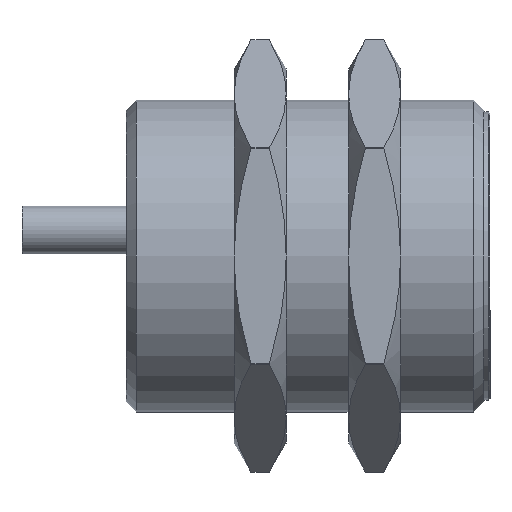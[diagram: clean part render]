
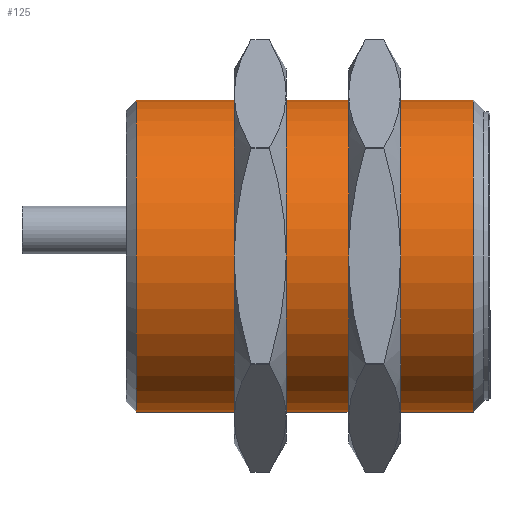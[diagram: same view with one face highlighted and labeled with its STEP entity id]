
A CAD part, front view. The second image highlights one B-rep face of the part: STEP entity #125.
In plain terms, the highlighted cylindrical face has radius 15 mm (diameter 30 mm), a full revolution.
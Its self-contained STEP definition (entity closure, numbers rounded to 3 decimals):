
#125 = ADVANCED_FACE( '', ( #249, #250 ), #251, .T. );
#249 = FACE_OUTER_BOUND( '', #397, .T. );
#250 = FACE_OUTER_BOUND( '', #398, .T. );
#251 = CYLINDRICAL_SURFACE( '', #399, 15. );
#397 = EDGE_LOOP( '', ( #558 ) );
#398 = EDGE_LOOP( '', ( #559 ) );
#399 = AXIS2_PLACEMENT_3D( '', #560, #561, #562 );
#558 = ORIENTED_EDGE( '', *, *, #851, .T. );
#559 = ORIENTED_EDGE( '', *, *, #852, .T. );
#560 = CARTESIAN_POINT( '', ( -34.4, 0., 0. ) );
#561 = DIRECTION( '', ( -1., 0., 0. ) );
#562 = DIRECTION( '', ( 0., 0., -1. ) );
#851 = EDGE_CURVE( '', #983, #983, #984, .F. );
#852 = EDGE_CURVE( '', #985, #985, #986, .T. );
#983 = VERTEX_POINT( '', #1191 );
#984 = CIRCLE( '', #1192, 15. );
#985 = VERTEX_POINT( '', #1193 );
#986 = CIRCLE( '', #1194, 15. );
#1191 = CARTESIAN_POINT( '', ( -33.4, 0., 15. ) );
#1192 = AXIS2_PLACEMENT_3D( '', #1479, #1480, #1481 );
#1193 = CARTESIAN_POINT( '', ( -1., 0., 15. ) );
#1194 = AXIS2_PLACEMENT_3D( '', #1482, #1483, #1484 );
#1479 = CARTESIAN_POINT( '', ( -33.4, 0., 0. ) );
#1480 = DIRECTION( '', ( -1., 0., 0. ) );
#1481 = DIRECTION( '', ( 0., 0., 1. ) );
#1482 = CARTESIAN_POINT( '', ( -1., 0., 0. ) );
#1483 = DIRECTION( '', ( -1., 0., 0. ) );
#1484 = DIRECTION( '', ( 0., 0., 1. ) );
